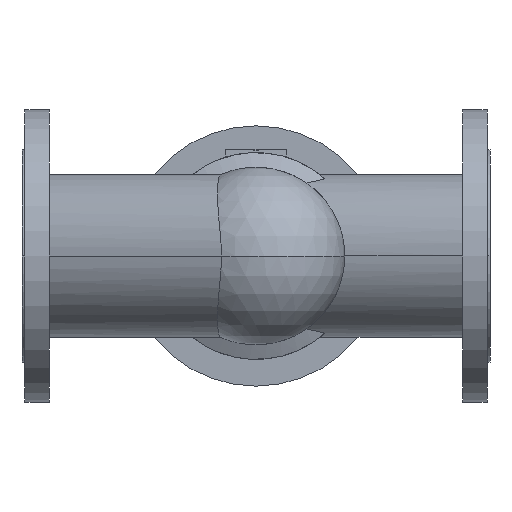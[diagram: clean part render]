
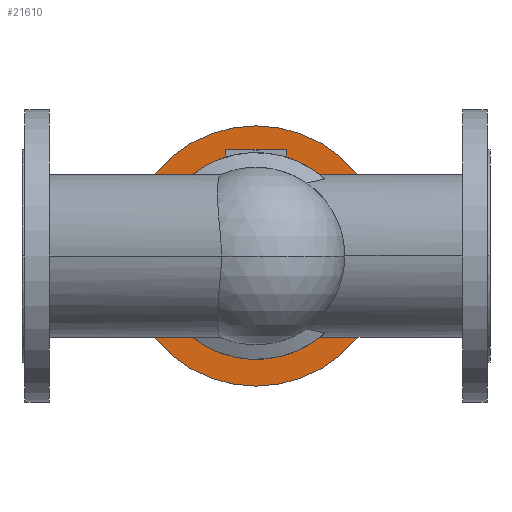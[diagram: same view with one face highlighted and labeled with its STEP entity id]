
A CAD part, front view. The second image highlights one B-rep face of the part: STEP entity #21610.
In plain terms, the highlighted planar face has unit normal (0, -1, 0).
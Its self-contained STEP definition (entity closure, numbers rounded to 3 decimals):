
#1320=CARTESIAN_POINT('',(106.5,143.2,0.));
#1330=VERTEX_POINT('',#1320);
#1380=CARTESIAN_POINT('',(240.,143.2,0.));
#1390=DIRECTION('',(0.,-1.,0.));
#1400=DIRECTION('',(-1.,0.,0.));
#1410=AXIS2_PLACEMENT_3D('',#1380,#1390,#1400);
#1420=CIRCLE('',#1410,133.5);
#1430=CARTESIAN_POINT('',(373.5,143.2,0.));
#1440=VERTEX_POINT('',#1430);
#1450=EDGE_CURVE('',#1330,#1440,#1420,.T.);
#1760=CARTESIAN_POINT('',(134.,143.2,0.));
#1770=VERTEX_POINT('',#1760);
#1800=CARTESIAN_POINT('',(240.,143.2,0.));
#1810=DIRECTION('',(0.,-1.,0.));
#1820=DIRECTION('',(-1.,0.,0.));
#1830=AXIS2_PLACEMENT_3D('',#1800,#1810,#1820);
#1840=CIRCLE('',#1830,106.);
#1850=CARTESIAN_POINT('',(346.,143.2,0.));
#1860=VERTEX_POINT('',#1850);
#1870=EDGE_CURVE('',#1860,#1770,#1840,.T.);
#21460=CARTESIAN_POINT('',(120.25,143.2,0.));
#21470=DIRECTION('',(0.,-1.,0.));
#21480=DIRECTION('',(-1.,0.,0.));
#21490=AXIS2_PLACEMENT_3D('',#21460,#21470,#21480);
#21500=PLANE('',#21490);
#21510=EDGE_CURVE('',#1770,#1860,#1840,.T.);
#21520=ORIENTED_EDGE('',*,*,#21510,.F.);
#21530=ORIENTED_EDGE('',*,*,#1870,.F.);
#21540=EDGE_LOOP('',(#21530,#21520));
#21550=FACE_BOUND('',#21540,.T.);
#21560=EDGE_CURVE('',#1440,#1330,#1420,.T.);
#21570=ORIENTED_EDGE('',*,*,#21560,.T.);
#21580=ORIENTED_EDGE('',*,*,#1450,.T.);
#21590=EDGE_LOOP('',(#21580,#21570));
#21600=FACE_OUTER_BOUND('',#21590,.T.);
#21610=ADVANCED_FACE('',(#21550,#21600),#21500,.T.);
